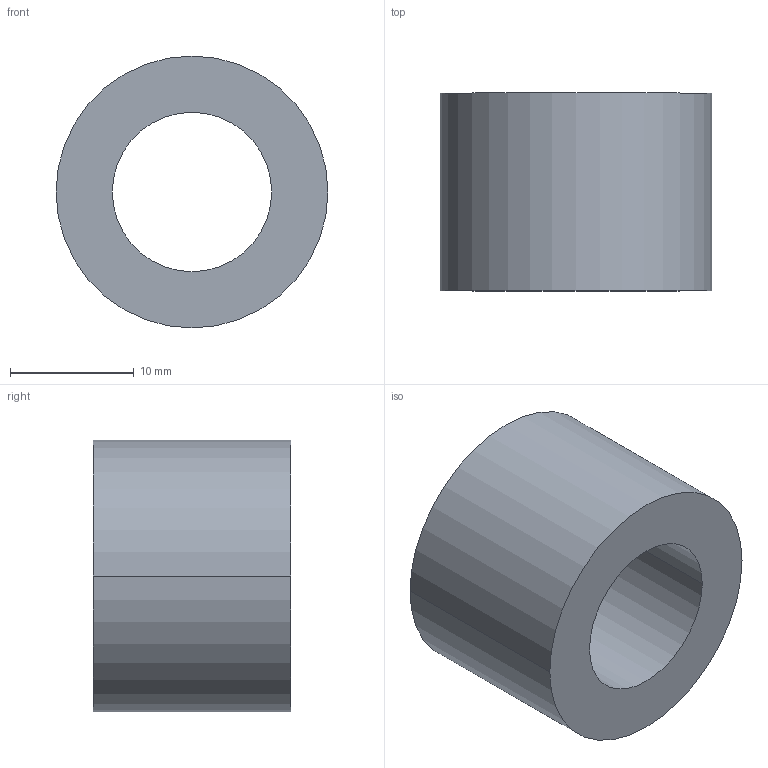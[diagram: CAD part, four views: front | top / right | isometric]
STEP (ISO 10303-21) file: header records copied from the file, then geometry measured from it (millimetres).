
FILE_DESCRIPTION (( 'STEP AP203' ), '1' );
FILE_NAME ('30800.WPP22F12.9.step', '2019-01-23T22:40:25', ( '' ), ( '' ), 'SwSTEP 2.0', 'SolidWorks 2017', '' );
FILE_SCHEMA (( 'CONFIG_CONTROL_DESIGN' ));
Length unit declared in the file: millimetre
Products named in the file (1): 30800.WPP22F12.9
Bounding box: 22 x 16 x 22 mm (x, y, z)
Volume: 3953.8 mm3; surface area: 2220.1 mm2
Topology: 1 solids, 1 shells, 8 faces, 16 edges, 10 vertices
Faces by surface type: cylinder 4, torus 2, plane 2
Entity records: 297 total; most frequent: DIRECTION 46, CARTESIAN_POINT 35, ORIENTED_EDGE 32, AXIS2_PLACEMENT_3D 21, EDGE_CURVE 16, CIRCLE 12, VERTEX_POINT 10, EDGE_LOOP 10
